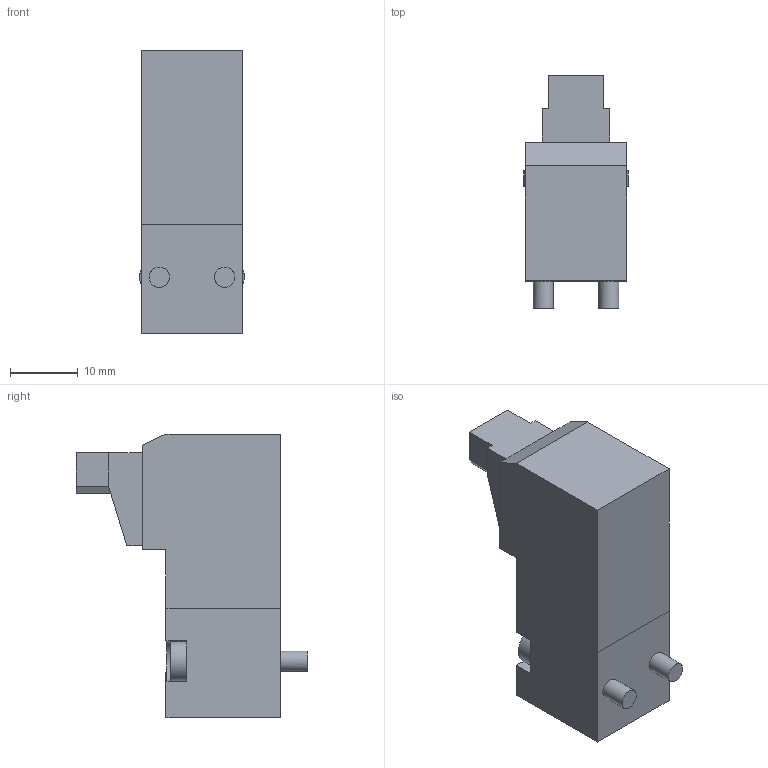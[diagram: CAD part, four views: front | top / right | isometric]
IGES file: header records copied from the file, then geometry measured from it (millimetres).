
Global section: file name: N3##_6#-8; native system: Autodesk Inventor 2014; preprocessor: unknown; author: A. Manieri; organization: Pneumax S.p.A.; date: 20160913.134743; units: millimetre
Bounding box: 15.5 x 34.3 x 42 mm (x, y, z)
Volume: 12223.5 mm3; surface area: 4087.8 mm2
Topology: 1 solids, 1 shells, 94 faces, 242 edges, 158 vertices
Faces by surface type: bspline 94
